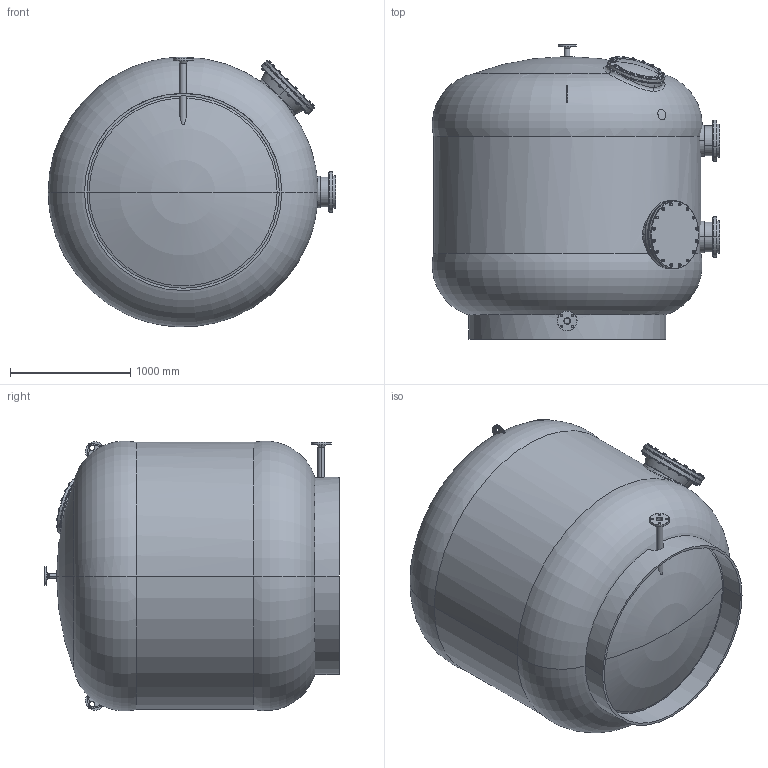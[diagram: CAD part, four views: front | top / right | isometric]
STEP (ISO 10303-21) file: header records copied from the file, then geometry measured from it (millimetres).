
FILE_DESCRIPTION (( 'STEP AP214' ), '1' );
FILE_NAME ('adriatic220c_big.STEP', '2020-11-04T14:51:47', ( '' ), ( '' ), 'SwSTEP 2.0', 'SolidWorks 2019', '' );
FILE_SCHEMA (( 'AUTOMOTIVE_DESIGN' ));
Length unit declared in the file: millimetre
Products named in the file (1): adriatic220c_big
Bounding box: 2390.72 x 2449.88 x 2243.42 mm (x, y, z)
Surface area: 44463550.3 mm2 (no closed solid volume)
Topology: 0 solids, 129 shells, 1909 faces, 4250 edges, 2601 vertices
Faces by surface type: cylinder 627, cone 591, plane 576, torus 95, bspline 12, sphere 8
Entity records: 106118 total; most frequent: CARTESIAN_POINT 42804, DIRECTION 8354, ORIENTED_EDGE 8352, EDGE_CURVE 4208, AXIS2_PLACEMENT_3D 3602, VERTEX_POINT 2599, EDGE_LOOP 2313, UNCERTAINTY_MEASURE_WITH_UNIT 2024
